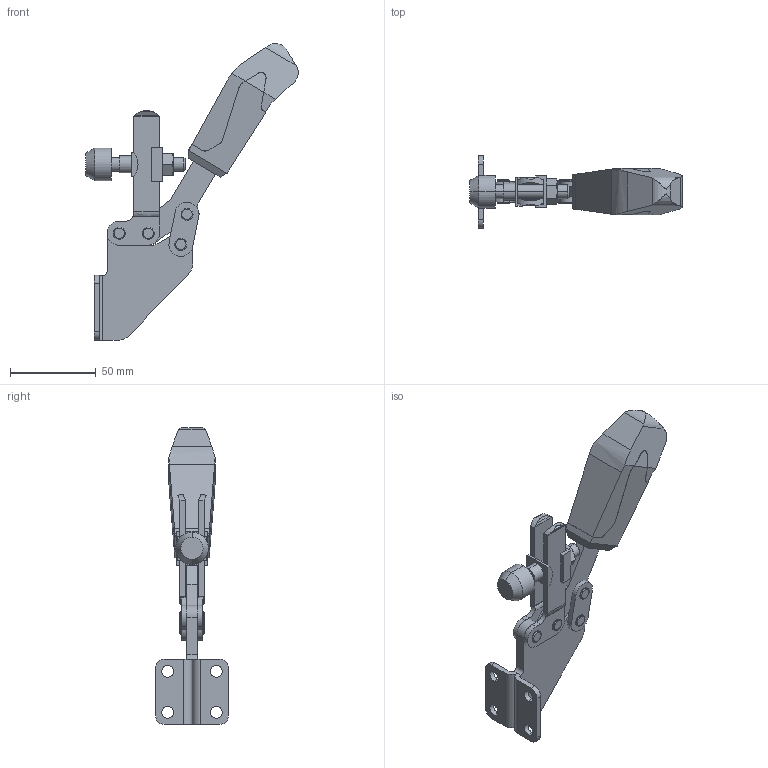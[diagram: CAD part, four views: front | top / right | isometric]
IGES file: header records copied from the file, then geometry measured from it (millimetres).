
Start section: 3D InterOp IGES (v. 2018 1.0.2), Spatial Corp. Copyright (c) 1999-2017.
Global section: file name: HWS_202_3_open.igs; native system: Spatial Corp.; preprocessor: 3D InterOp GENERIC/IGES 3.0; author: Noname; organization: Noname; date: 20191011.111633; units: metre
Bounding box: 123.95 x 42.5 x 173.14 mm (x, y, z)
Surface area: 36673.5 mm2 (no closed solid volume)
Topology: 0 solids, 0 shells, 293 faces, 1478 edges, 1478 vertices
Faces by surface type: revolution 160, extrusion 133
